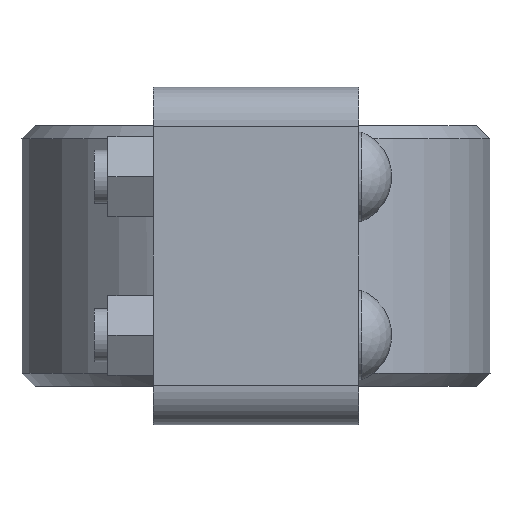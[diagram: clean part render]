
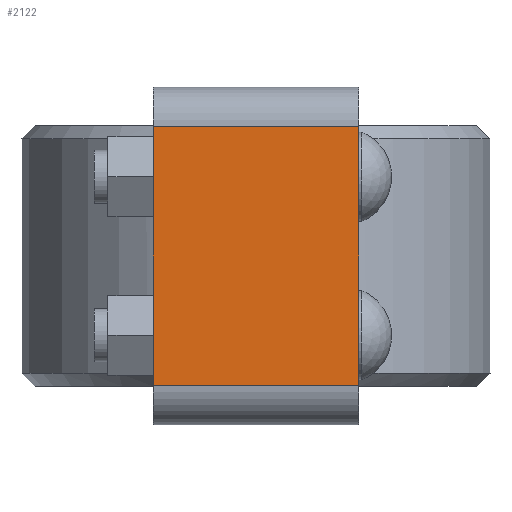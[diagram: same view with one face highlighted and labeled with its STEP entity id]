
A CAD part, left-side view. The second image highlights one B-rep face of the part: STEP entity #2122.
In plain terms, the highlighted planar face has unit normal (-1, 0, 0).
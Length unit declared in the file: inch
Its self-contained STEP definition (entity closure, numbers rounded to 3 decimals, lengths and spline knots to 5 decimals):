
#192=FACE_OUTER_BOUND('',#320,.T.);
#320=EDGE_LOOP('',(#1640,#1641,#1642,#1643));
#451=LINE('',#3311,#618);
#479=LINE('',#3414,#646);
#499=LINE('',#3484,#666);
#500=LINE('',#3486,#667);
#618=VECTOR('',#2679,0.3937);
#646=VECTOR('',#2739,0.3937);
#666=VECTOR('',#2805,0.3937);
#667=VECTOR('',#2808,0.3937);
#910=VERTEX_POINT('',#3308);
#911=VERTEX_POINT('',#3310);
#954=VERTEX_POINT('',#3411);
#955=VERTEX_POINT('',#3413);
#1140=EDGE_CURVE('',#910,#911,#451,.T.);
#1187=EDGE_CURVE('',#954,#955,#479,.T.);
#1221=EDGE_CURVE('',#910,#955,#499,.T.);
#1222=EDGE_CURVE('',#911,#954,#500,.T.);
#1640=ORIENTED_EDGE('',*,*,#1221,.T.);
#1641=ORIENTED_EDGE('',*,*,#1187,.F.);
#1642=ORIENTED_EDGE('',*,*,#1222,.F.);
#1643=ORIENTED_EDGE('',*,*,#1140,.F.);
#1927=PLANE('',#2330);
#2122=ADVANCED_FACE('',(#192),#1927,.T.);
#2330=AXIS2_PLACEMENT_3D('',#3485,#2806,#2807);
#2679=DIRECTION('',(0.,0.,1.));
#2739=DIRECTION('',(0.,0.,-1.));
#2805=DIRECTION('',(0.,-1.,0.));
#2806=DIRECTION('center_axis',(-1.,0.,0.));
#2807=DIRECTION('ref_axis',(0.,0.,-1.));
#2808=DIRECTION('',(0.,-1.,0.));
#3308=CARTESIAN_POINT('',(-6.625,1.94,-2.44));
#3310=CARTESIAN_POINT('',(-6.625,1.94,2.44));
#3311=CARTESIAN_POINT('',(-6.625,1.94,0.));
#3411=CARTESIAN_POINT('',(-6.625,-1.94,2.44));
#3413=CARTESIAN_POINT('',(-6.625,-1.94,-2.44));
#3414=CARTESIAN_POINT('',(-6.625,-1.94,2.44));
#3484=CARTESIAN_POINT('',(-6.625,0.,-2.44));
#3485=CARTESIAN_POINT('Origin',(-6.625,0.,2.44));
#3486=CARTESIAN_POINT('',(-6.625,0.,2.44));
